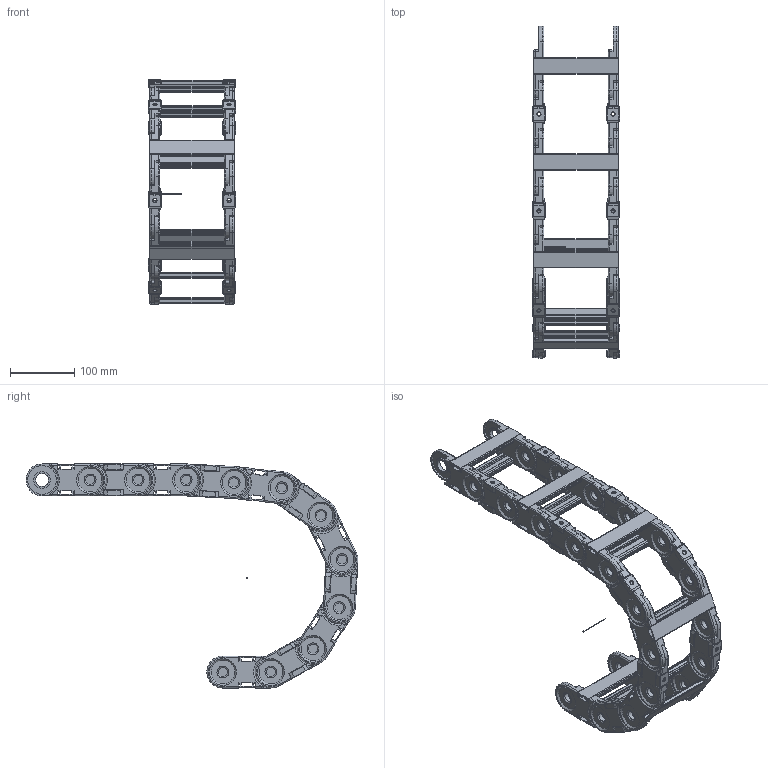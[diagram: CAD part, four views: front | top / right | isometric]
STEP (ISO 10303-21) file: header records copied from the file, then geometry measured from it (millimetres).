
FILE_DESCRIPTION((''),'2;1');
FILE_NAME('C:\Uebbing\TRACE PARTS\PLE\PLE 220\PLE 220 vereinfacht.stp','2013-05-29T10:33:16',('Uebbing'),(''),'Autodesk Inventor 10','Autodesk Inventor 10','');
FILE_SCHEMA(('AUTOMOTIVE_DESIGN { 1 0 10303 214 1 1 1 1 }'));
Length unit declared in the file: millimetre
Products named in the file (4): PLE 220 vereinfacht; Achse; PLE 220 Glied vereinfacht; PLE 220 Glied ohne Steg vereinfacht
Assembly tree (12 placements, depth 2):
  PLE 220 vereinfacht
    Achse
    PLE 220 Glied vereinfacht  x6
    PLE 220 Glied ohne Steg vereinfacht  x5
Bounding box: 136 x 518.26 x 350 mm (x, y, z)
Volume: 1045956.7 mm3; surface area: 559988.2 mm2
Topology: 17 solids, 17 shells, 3075 faces, 8422 edges, 5249 vertices
Faces by surface type: plane 1528, cylinder 1025, bspline 238, torus 152, sphere 88, cone 44
Full cylindrical faces by diameter (mm): 1 x1, 6 x22, 6.1 x20, 14.5 x22, 19.95 x22, 20.15 x22, 26 x44, 45 x44
Entity records: 17993 total; most frequent: CARTESIAN_POINT 3287, DIRECTION 3088, ORIENTED_EDGE 2976, EDGE_CURVE 1488, AXIS2_PLACEMENT_3D 1071, VERTEX_POINT 974, VECTOR 946, LINE 946
